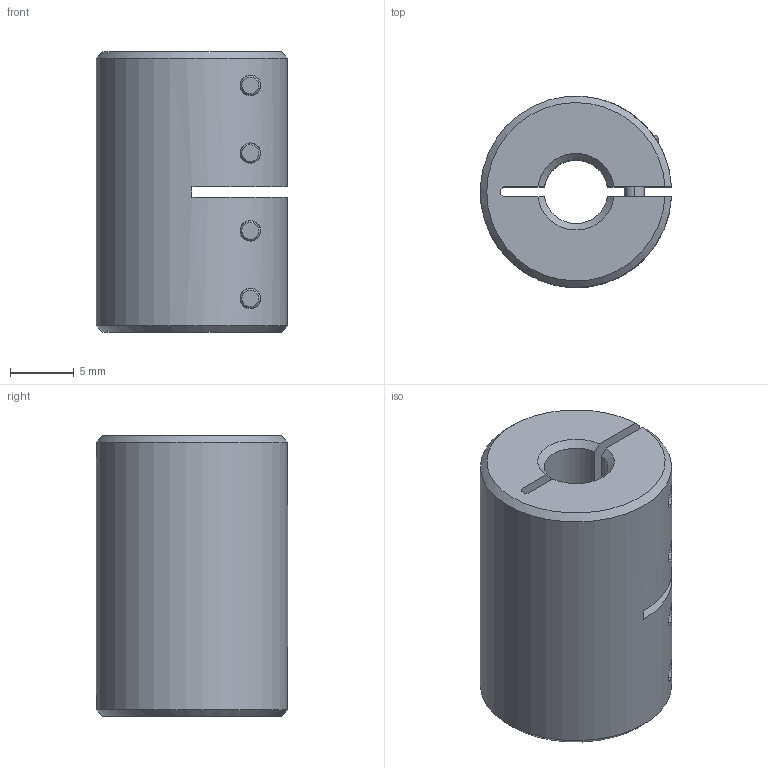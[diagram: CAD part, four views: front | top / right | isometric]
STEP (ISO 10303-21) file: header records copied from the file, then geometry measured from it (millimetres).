
FILE_DESCRIPTION((''),'2;1');
FILE_NAME('MCLX-5-5-F','2016-09-07T',('SYSTEM'),(''),'PRO/ENGINEER BY PARAMETRIC TECHNOLOGY CORPORATION, 2015110','PRO/ENGINEER BY PARAMETRIC TECHNOLOGY CORPORATION, 2015110','');
FILE_SCHEMA(('AUTOMOTIVE_DESIGN { 1 0 10303 214 1 1 1 1 }'));
Length unit declared in the file: inch
Products named in the file (1): MCLX-5-5-F
Bounding box: 14.98 x 15 x 22 mm (x, y, z)
Volume: 3082.1 mm3; surface area: 2584.6 mm2
Topology: 1 solids, 1 shells, 126 faces, 303 edges, 197 vertices
Faces by surface type: plane 61, cylinder 43, cone 22
Entity records: 4917 total; most frequent: CARTESIAN_POINT 977, DIRECTION 626, ORIENTED_EDGE 606, EDGE_CURVE 303, AXIS2_PLACEMENT_3D 229, VERTEX_POINT 197, VECTOR 168, LINE 168
